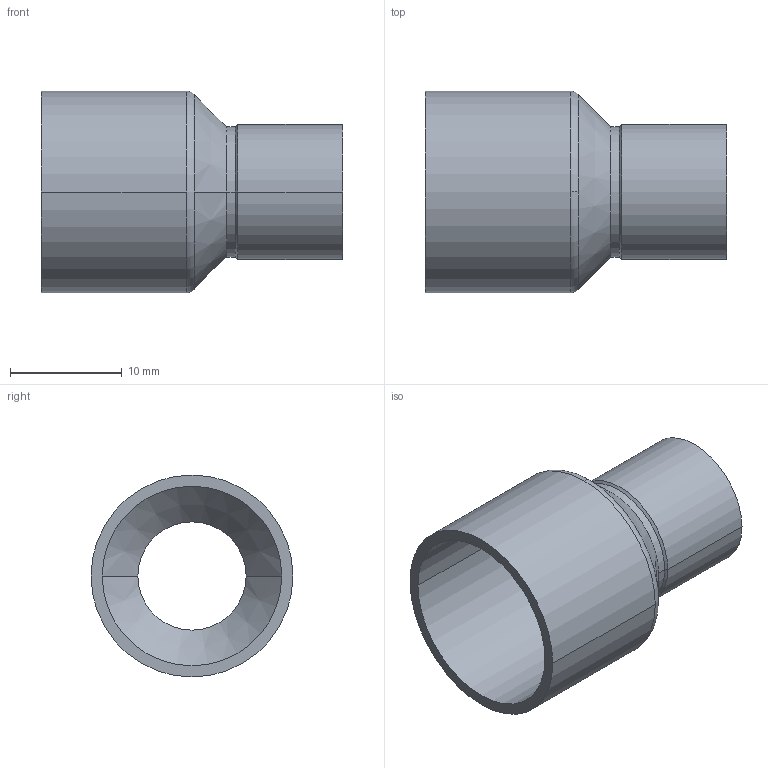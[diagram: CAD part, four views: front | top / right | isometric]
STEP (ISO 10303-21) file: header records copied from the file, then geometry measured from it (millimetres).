
FILE_DESCRIPTION((''),'2;1');
FILE_NAME('G:\Technics\CAD\Bauteile\Serie 15240\152401610.stp','2005-10-21T12:51:03',('boden'),(''),'Autodesk Inventor 8','Autodesk Inventor 8','');
FILE_SCHEMA(('AUTOMOTIVE_DESIGN { 1 0 10303 214 1 1 1 1 }'));
Length unit declared in the file: millimetre
Products named in the file (1): 152401610
Bounding box: 27 x 18.11 x 18.11 mm (x, y, z)
Volume: 1277.4 mm3; surface area: 2643.4 mm2
Topology: 1 solids, 1 shells, 24 faces, 52 edges, 30 vertices
Faces by surface type: cylinder 12, cone 8, torus 2, plane 2
Entity records: 683 total; most frequent: DIRECTION 134, CARTESIAN_POINT 107, ORIENTED_EDGE 104, AXIS2_PLACEMENT_3D 57, EDGE_CURVE 52, CIRCLE 32, VERTEX_POINT 30, EDGE_LOOP 26
